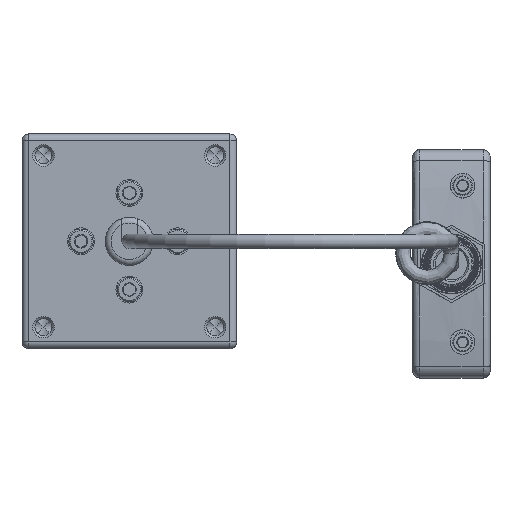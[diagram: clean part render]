
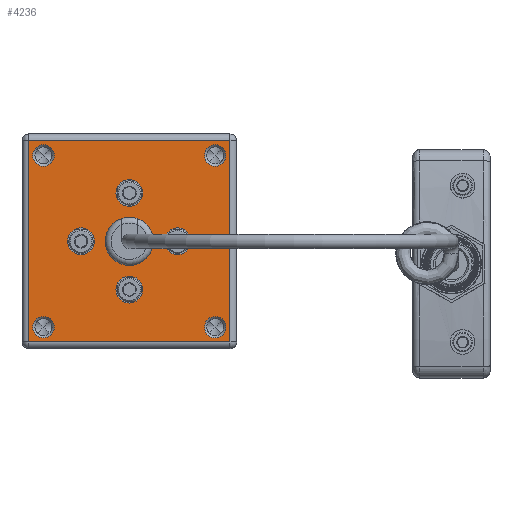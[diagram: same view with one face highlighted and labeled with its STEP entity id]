
A CAD part, left-side view. The second image highlights one B-rep face of the part: STEP entity #4236.
In plain terms, the highlighted planar face has unit normal (-1, 0, 0).
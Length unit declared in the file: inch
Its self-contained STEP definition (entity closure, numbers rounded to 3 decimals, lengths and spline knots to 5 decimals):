
#4014=CARTESIAN_POINT('',(32.17224,-4.82531,9.52085));
#4015=VERTEX_POINT('',#4014);
#4023=CARTESIAN_POINT('',(32.17224,-4.97531,9.52085));
#4024=VERTEX_POINT('',#4023);
#4031=CARTESIAN_POINT('',(32.17224,-4.97431,9.52128));
#4032=VERTEX_POINT('',#4031);
#4033=CARTESIAN_POINT('',(32.17224,-4.90031,9.349));
#4034=DIRECTION('',(1.0,0.0,0.0));
#4035=DIRECTION('',(0.0,-1.0,0.0));
#4036=AXIS2_PLACEMENT_3D('',#4033,#4034,#4035);
#4037=CIRCLE('',#4036,0.1875);
#4038=EDGE_CURVE('',#4032,#4024,#4037,.T.);
#4040=CARTESIAN_POINT('',(32.17224,-4.82631,9.52128));
#4041=VERTEX_POINT('',#4040);
#4049=CARTESIAN_POINT('',(32.17224,-4.90031,9.349));
#4050=DIRECTION('',(1.0,0.0,0.0));
#4051=DIRECTION('',(0.0,-1.0,0.0));
#4052=AXIS2_PLACEMENT_3D('',#4049,#4050,#4051);
#4053=CIRCLE('',#4052,0.1875);
#4054=EDGE_CURVE('',#4015,#4041,#4053,.T.);
#4059=CARTESIAN_POINT('',(32.17224,-3.90031,10.349));
#4060=DIRECTION('',(-1.0,0.0,0.0));
#4061=DIRECTION('',(0.0,1.0,0.0));
#4062=AXIS2_PLACEMENT_3D('',#4059,#4060,#4061);
#4063=PLANE('',#4062);
#4064=CARTESIAN_POINT('',(32.17224,-3.96281,8.4115));
#4065=VERTEX_POINT('',#4064);
#4066=CARTESIAN_POINT('',(32.17224,-5.83781,8.4115));
#4067=VERTEX_POINT('',#4066);
#4068=CARTESIAN_POINT('',(32.17224,-5.83781,8.4115));
#4069=DIRECTION('',(0.0,1.0,0.0));
#4070=VECTOR('',#4069,1.875);
#4071=LINE('',#4068,#4070);
#4072=EDGE_CURVE('',#4065,#4067,#4071,.F.);
#4073=ORIENTED_EDGE('',*,*,#4072,.T.);
#4074=CARTESIAN_POINT('',(32.17224,-5.83781,10.2865));
#4075=VERTEX_POINT('',#4074);
#4076=CARTESIAN_POINT('',(32.17224,-5.83781,10.2865));
#4077=DIRECTION('',(0.0,0.0,-1.0));
#4078=VECTOR('',#4077,1.875);
#4079=LINE('',#4076,#4078);
#4080=EDGE_CURVE('',#4067,#4075,#4079,.F.);
#4081=ORIENTED_EDGE('',*,*,#4080,.T.);
#4082=CARTESIAN_POINT('',(32.17224,-3.96281,10.2865));
#4083=VERTEX_POINT('',#4082);
#4084=CARTESIAN_POINT('',(32.17224,-3.96281,10.2865));
#4085=DIRECTION('',(0.0,-1.0,0.0));
#4086=VECTOR('',#4085,1.875);
#4087=LINE('',#4084,#4086);
#4088=EDGE_CURVE('',#4075,#4083,#4087,.F.);
#4089=ORIENTED_EDGE('',*,*,#4088,.T.);
#4090=CARTESIAN_POINT('',(32.17224,-3.96281,8.4115));
#4091=DIRECTION('',(0.0,0.0,1.0));
#4092=VECTOR('',#4091,1.875);
#4093=LINE('',#4090,#4092);
#4094=EDGE_CURVE('',#4083,#4065,#4093,.F.);
#4095=ORIENTED_EDGE('',*,*,#4094,.T.);
#4096=EDGE_LOOP('',(#4073,#4081,#4089,#4095));
#4097=FACE_OUTER_BOUND('',#4096,.T.);
#4098=CARTESIAN_POINT('',(32.17224,-4.97431,9.56148));
#4099=VERTEX_POINT('',#4098);
#4100=CARTESIAN_POINT('',(32.17224,-4.97431,9.56148));
#4101=DIRECTION('',(0.0,0.0,-1.0));
#4102=VECTOR('',#4101,0.0402);
#4103=LINE('',#4100,#4102);
#4104=EDGE_CURVE('',#4099,#4032,#4103,.T.);
#4105=ORIENTED_EDGE('',*,*,#4104,.T.);
#4106=ORIENTED_EDGE('',*,*,#4038,.T.);
#4107=CARTESIAN_POINT('',(32.17224,-4.97531,9.56113));
#4108=VERTEX_POINT('',#4107);
#4109=CARTESIAN_POINT('',(32.17224,-4.97531,9.56113));
#4110=DIRECTION('',(0.0,0.0,-1.0));
#4111=VECTOR('',#4110,0.04029);
#4112=LINE('',#4109,#4111);
#4113=EDGE_CURVE('',#4108,#4024,#4112,.T.);
#4114=ORIENTED_EDGE('',*,*,#4113,.F.);
#4115=CARTESIAN_POINT('',(32.17224,-4.82531,9.56113));
#4116=VERTEX_POINT('',#4115);
#4117=CARTESIAN_POINT('',(32.17224,-4.90031,9.349));
#4118=DIRECTION('',(1.,0.,0.));
#4119=DIRECTION('',(0.,-0.333,0.943));
#4120=AXIS2_PLACEMENT_3D('',#4117,#4118,#4119);
#4121=CIRCLE('',#4120,0.225);
#4122=EDGE_CURVE('',#4108,#4116,#4121,.T.);
#4123=ORIENTED_EDGE('',*,*,#4122,.T.);
#4124=CARTESIAN_POINT('',(32.17224,-4.82531,9.52085));
#4125=DIRECTION('',(0.,0.0,1.0));
#4126=VECTOR('',#4125,0.04029);
#4127=LINE('',#4124,#4126);
#4128=EDGE_CURVE('',#4015,#4116,#4127,.T.);
#4129=ORIENTED_EDGE('',*,*,#4128,.F.);
#4130=ORIENTED_EDGE('',*,*,#4054,.T.);
#4131=CARTESIAN_POINT('',(32.17224,-4.82631,9.56148));
#4132=VERTEX_POINT('',#4131);
#4133=CARTESIAN_POINT('',(32.17224,-4.82631,9.56148));
#4134=DIRECTION('',(0.0,0.0,-1.0));
#4135=VECTOR('',#4134,0.0402);
#4136=LINE('',#4133,#4135);
#4137=EDGE_CURVE('',#4132,#4041,#4136,.T.);
#4138=ORIENTED_EDGE('',*,*,#4137,.F.);
#4139=CARTESIAN_POINT('',(32.17224,-4.90031,9.349));
#4140=DIRECTION('',(1.0,0.0,0.0));
#4141=DIRECTION('',(0.0,0.0,1.0));
#4142=AXIS2_PLACEMENT_3D('',#4139,#4140,#4141);
#4143=CIRCLE('',#4142,0.225);
#4144=EDGE_CURVE('',#4132,#4099,#4143,.T.);
#4145=ORIENTED_EDGE('',*,*,#4144,.T.);
#4146=EDGE_LOOP('',(#4105,#4106,#4114,#4123,#4129,#4130,#4138,#4145));
#4147=FACE_BOUND('',#4146,.T.);
#4148=CARTESIAN_POINT('',(32.17224,-4.77531,9.799));
#4149=VERTEX_POINT('',#4148);
#4150=CARTESIAN_POINT('',(32.17224,-4.90031,9.799));
#4151=DIRECTION('',(-1.0,0.0,0.0));
#4152=DIRECTION('',(0.0,1.0,0.0));
#4153=AXIS2_PLACEMENT_3D('',#4150,#4151,#4152);
#4154=CIRCLE('',#4153,0.125);
#4155=EDGE_CURVE('',#4149,#4149,#4154,.T.);
#4156=ORIENTED_EDGE('',*,*,#4155,.F.);
#4157=EDGE_LOOP('',(#4156));
#4158=FACE_BOUND('',#4157,.T.);
#4159=CARTESIAN_POINT('',(32.17224,-5.22531,9.349));
#4160=VERTEX_POINT('',#4159);
#4161=CARTESIAN_POINT('',(32.17224,-5.35031,9.349));
#4162=DIRECTION('',(-1.0,0.0,0.0));
#4163=DIRECTION('',(0.0,1.0,0.0));
#4164=AXIS2_PLACEMENT_3D('',#4161,#4162,#4163);
#4165=CIRCLE('',#4164,0.125);
#4166=EDGE_CURVE('',#4160,#4160,#4165,.T.);
#4167=ORIENTED_EDGE('',*,*,#4166,.F.);
#4168=EDGE_LOOP('',(#4167));
#4169=FACE_BOUND('',#4168,.T.);
#4170=CARTESIAN_POINT('',(32.17224,-4.77531,8.899));
#4171=VERTEX_POINT('',#4170);
#4172=CARTESIAN_POINT('',(32.17224,-4.90031,8.899));
#4173=DIRECTION('',(-1.0,0.0,0.0));
#4174=DIRECTION('',(0.0,1.0,0.0));
#4175=AXIS2_PLACEMENT_3D('',#4172,#4173,#4174);
#4176=CIRCLE('',#4175,0.125);
#4177=EDGE_CURVE('',#4171,#4171,#4176,.T.);
#4178=ORIENTED_EDGE('',*,*,#4177,.F.);
#4179=EDGE_LOOP('',(#4178));
#4180=FACE_BOUND('',#4179,.T.);
#4181=CARTESIAN_POINT('',(32.17224,-4.32531,9.349));
#4182=VERTEX_POINT('',#4181);
#4183=CARTESIAN_POINT('',(32.17224,-4.45031,9.349));
#4184=DIRECTION('',(-1.0,0.0,0.0));
#4185=DIRECTION('',(0.0,1.0,0.0));
#4186=AXIS2_PLACEMENT_3D('',#4183,#4184,#4185);
#4187=CIRCLE('',#4186,0.125);
#4188=EDGE_CURVE('',#4182,#4182,#4187,.T.);
#4189=ORIENTED_EDGE('',*,*,#4188,.F.);
#4190=EDGE_LOOP('',(#4189));
#4191=FACE_BOUND('',#4190,.T.);
#4192=CARTESIAN_POINT('',(32.17224,-5.60031,10.149));
#4193=VERTEX_POINT('',#4192);
#4194=CARTESIAN_POINT('',(32.17224,-5.70031,10.149));
#4195=DIRECTION('',(-1.0,0.0,0.0));
#4196=DIRECTION('',(0.0,1.0,0.0));
#4197=AXIS2_PLACEMENT_3D('',#4194,#4195,#4196);
#4198=CIRCLE('',#4197,0.1);
#4199=EDGE_CURVE('',#4193,#4193,#4198,.T.);
#4200=ORIENTED_EDGE('',*,*,#4199,.F.);
#4201=EDGE_LOOP('',(#4200));
#4202=FACE_BOUND('',#4201,.T.);
#4203=CARTESIAN_POINT('',(32.17224,-4.00031,10.149));
#4204=VERTEX_POINT('',#4203);
#4205=CARTESIAN_POINT('',(32.17224,-4.10031,10.149));
#4206=DIRECTION('',(-1.0,0.0,0.0));
#4207=DIRECTION('',(0.0,1.0,0.0));
#4208=AXIS2_PLACEMENT_3D('',#4205,#4206,#4207);
#4209=CIRCLE('',#4208,0.1);
#4210=EDGE_CURVE('',#4204,#4204,#4209,.T.);
#4211=ORIENTED_EDGE('',*,*,#4210,.F.);
#4212=EDGE_LOOP('',(#4211));
#4213=FACE_BOUND('',#4212,.T.);
#4214=CARTESIAN_POINT('',(32.17224,-4.00031,8.549));
#4215=VERTEX_POINT('',#4214);
#4216=CARTESIAN_POINT('',(32.17224,-4.10031,8.549));
#4217=DIRECTION('',(-1.0,0.0,0.0));
#4218=DIRECTION('',(0.0,1.0,0.0));
#4219=AXIS2_PLACEMENT_3D('',#4216,#4217,#4218);
#4220=CIRCLE('',#4219,0.1);
#4221=EDGE_CURVE('',#4215,#4215,#4220,.T.);
#4222=ORIENTED_EDGE('',*,*,#4221,.F.);
#4223=EDGE_LOOP('',(#4222));
#4224=FACE_BOUND('',#4223,.T.);
#4225=CARTESIAN_POINT('',(32.17224,-5.60031,8.549));
#4226=VERTEX_POINT('',#4225);
#4227=CARTESIAN_POINT('',(32.17224,-5.70031,8.549));
#4228=DIRECTION('',(-1.0,0.0,0.0));
#4229=DIRECTION('',(0.0,1.0,0.0));
#4230=AXIS2_PLACEMENT_3D('',#4227,#4228,#4229);
#4231=CIRCLE('',#4230,0.1);
#4232=EDGE_CURVE('',#4226,#4226,#4231,.T.);
#4233=ORIENTED_EDGE('',*,*,#4232,.F.);
#4234=EDGE_LOOP('',(#4233));
#4235=FACE_BOUND('',#4234,.T.);
#4236=ADVANCED_FACE('',(#4097,#4147,#4158,#4169,#4180,#4191,#4202,#4213,#4224,#4235),#4063,.T.);
